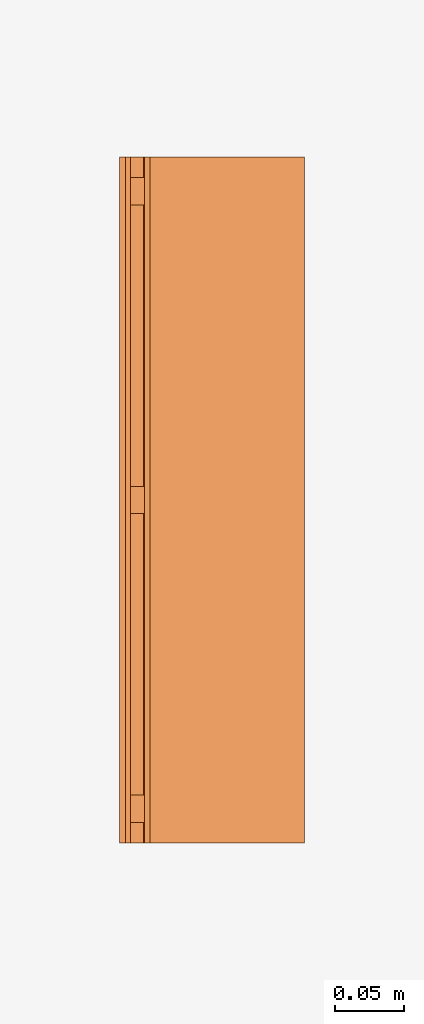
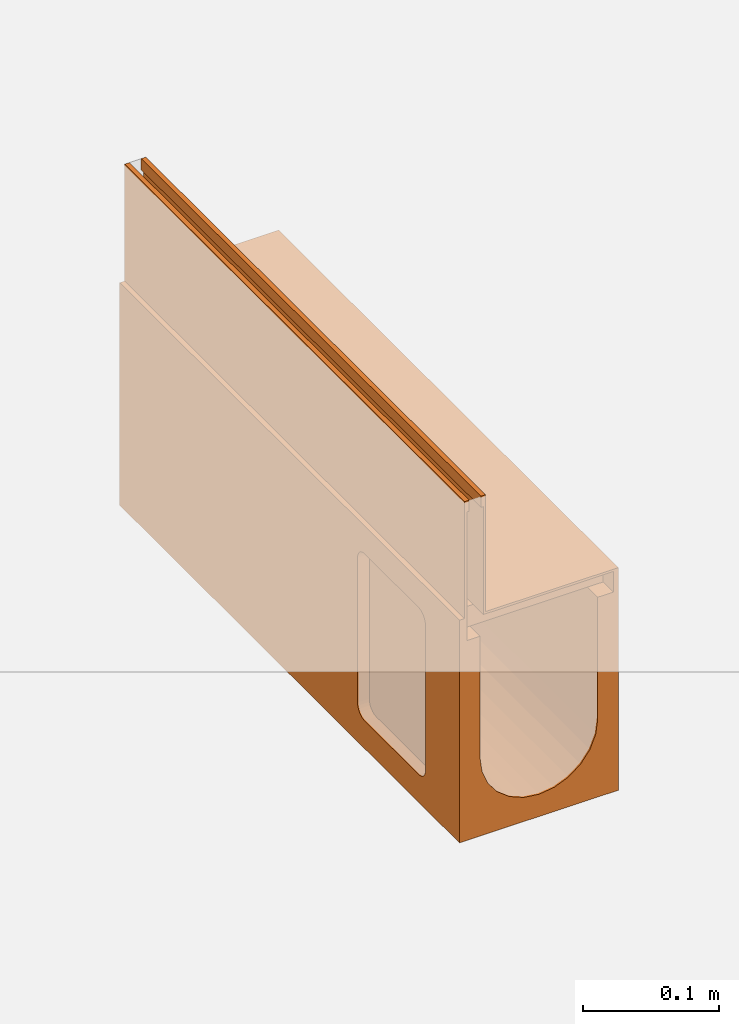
# One storey, part 2 of 2: 1 proxy.
"""IFC2X3 building model written with IfcOpenShell, lengths in millimetres."""

from ifc_helpers import new_model, entity, si_unit, converted_unit, direction, frame, origin, place, context, subcontext, project, spatial, faceted_brep, source, transform, mapped, material, material_list, element, save


model = new_model("IFC2X3")

# Units and contexts
model_context = context("Model", 3, precision=1e-06, world=origin(), true_north=direction((2.0, 6.12303176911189e-17, 1.0)))
context_of_model = context(None, 3, precision=1e-06, world=origin(), true_north=direction((2.0, 6.12303176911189e-17, 1.0)))
body_context = subcontext(model_context, "Body", "Model", "MODEL_VIEW")
ifc_project = project(units=[si_unit("LENGTHUNIT", "METRE", prefix="MILLI"), si_unit("AREAUNIT", "SQUARE_METRE", prefix="MILLI"), si_unit("VOLUMEUNIT", "CUBIC_METRE", prefix="MILLI"), converted_unit("PLANEANGLEUNIT", "DEGREE", entity("IfcRatioMeasure", 0.0174532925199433), si_unit("PLANEANGLEUNIT", "RADIAN"), dimensions=[0, 0, 0, 0, 0, 0, 0]), si_unit("TIMEUNIT", "SECOND")], contexts=[model_context, context_of_model])

# Site, building, storey
site_placement = place(None, origin())
site = spatial("IfcSite", under=ifc_project, at=site_placement, Name="Default", CompositionType="ELEMENT")
building_placement = place(site_placement, origin())
building = spatial("IfcBuilding", under=site, at=building_placement, CompositionType="ELEMENT")
storey_placement = place(building_placement, origin())
storey = spatial("IfcBuildingStorey", under=building, at=storey_placement, Name="Level 1", CompositionType="ELEMENT", Elevation=0.0)

# Proxy
ifc_material_1 = material(Name="Stainless Steel (F)")
ifc_material_2 = material(Name="Vienite® Synthetic Resin Concrete")
ifc_material_list = material_list([ifc_material_1, ifc_material_2])
shared_shape = source(origin(), body_context, "Body", "Brep", [
    faceted_brep([(63.249999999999, 15.0, -107.0), (63.249999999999, 17.0, -109.0), (63.249999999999, 33.0, -109.0), (63.249999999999, 35.0, -107.0), (63.249999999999, 17.0, -123.499999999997), (63.249999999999, 15.0, -125.499999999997), (63.249999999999, 33.0, -123.499999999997), (63.249999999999, 35.0, -125.499999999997), (-61.250000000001, 15.0, -125.499999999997), (-61.250000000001, 17.0, -123.499999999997), (-61.250000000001, 33.0, -123.499999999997), (-61.250000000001, 35.0, -125.499999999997), (-61.250000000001, 17.0, -109.0), (-61.250000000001, 15.0, -107.0), (-61.250000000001, 33.0, -109.0), (-61.250000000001, 35.0, -107.0)], [[[0, 1, 2, 3]], [[4, 1, 0, 5]], [[3, 2, 6, 7]], [[6, 4, 5, 7]], [[8, 9, 10, 11]], [[12, 9, 8, 13]], [[11, 10, 14, 15]], [[14, 12, 13, 15]], [[5, 0, 13, 8]], [[7, 5, 8, 11]], [[3, 7, 11, 15]], [[0, 3, 15, 13]], [[1, 4, 9, 12]], [[14, 2, 1, 12]], [[6, 2, 14, 10]], [[9, 4, 6, 10]]]),
    faceted_brep([(63.2499999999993, 240.0, -107.0), (63.2499999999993, 242.0, -109.0), (63.2499999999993, 258.0, -109.0), (63.2499999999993, 260.0, -107.0), (63.2499999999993, 242.0, -123.499999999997), (63.2499999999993, 240.0, -125.499999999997), (63.2499999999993, 258.0, -123.499999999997), (63.2499999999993, 260.0, -125.499999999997), (-61.2500000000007, 240.0, -125.499999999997), (-61.2500000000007, 242.0, -123.499999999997), (-61.2500000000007, 258.0, -123.499999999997), (-61.2500000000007, 260.0, -125.499999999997), (-61.2500000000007, 242.0, -109.0), (-61.2500000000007, 240.0, -107.0), (-61.2500000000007, 258.0, -109.0), (-61.2500000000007, 260.0, -107.0)], [[[0, 1, 2, 3]], [[4, 1, 0, 5]], [[3, 2, 6, 7]], [[6, 4, 5, 7]], [[8, 9, 10, 11]], [[12, 9, 8, 13]], [[11, 10, 14, 15]], [[14, 12, 13, 15]], [[5, 0, 13, 8]], [[7, 5, 8, 11]], [[3, 7, 11, 15]], [[0, 3, 15, 13]], [[1, 4, 9, 12]], [[2, 1, 12, 14]], [[6, 2, 14, 10]], [[4, 6, 10, 9]]]),
    faceted_brep([(63.2499999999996, 465.0, -107.0), (63.2499999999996, 467.0, -109.0), (63.2499999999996, 483.0, -109.0), (63.2499999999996, 485.0, -107.0), (63.2499999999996, 467.0, -123.499999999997), (63.2499999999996, 465.0, -125.499999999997), (63.2499999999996, 483.0, -123.499999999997), (63.2499999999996, 485.0, -125.499999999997), (-61.2500000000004, 465.0, -125.499999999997), (-61.2500000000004, 467.0, -123.499999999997), (-61.2500000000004, 483.0, -123.499999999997), (-61.2500000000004, 485.0, -125.499999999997), (-61.2500000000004, 467.0, -109.0), (-61.2500000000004, 465.0, -107.0), (-61.2500000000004, 483.0, -109.0), (-61.2500000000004, 485.0, -107.0)], [[[0, 1, 2, 3]], [[4, 1, 0, 5]], [[3, 2, 6, 7]], [[6, 4, 5, 7]], [[8, 9, 10, 11]], [[12, 9, 8, 13]], [[11, 10, 14, 15]], [[14, 12, 13, 15]], [[5, 0, 13, 8]], [[7, 5, 8, 11]], [[3, 7, 11, 15]], [[0, 3, 15, 13]], [[1, 4, 9, 12]], [[2, 1, 12, 14]], [[6, 2, 14, 10]], [[4, 6, 10, 9]]]),
    faceted_brep([(-47.2500000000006, 0.0, -10.0), (-47.2500000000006, 0.0, -107.0), (-45.2500000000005, 0.0, -105.0), (-45.2500000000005, 0.0, 0.0), (-49.2500000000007, 0.0, 0.0), (-49.2500000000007, 0.0, -10.0), (63.2499999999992, 0.0, -107.0), (63.2499999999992, 0.0, -105.0), (-45.2500000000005, 500.0, -105.0), (63.2499999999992, 500.0, -105.0), (63.2499999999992, 500.0, -107.0), (-47.2500000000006, 500.0, -107.0), (-47.2500000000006, 500.0, -10.0), (-45.2500000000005, 500.0, 0.0), (-49.2500000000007, 500.0, -10.0), (-49.2500000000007, 500.0, 0.0)], [[[0, 1, 2, 3]], [[4, 5, 0, 3]], [[6, 7, 2, 1]], [[8, 9, 10, 11]], [[12, 13, 8, 11]], [[12, 14, 15, 13]], [[12, 0, 5, 14]], [[1, 0, 12, 11]], [[6, 1, 11, 10]], [[9, 7, 6, 10]], [[8, 2, 7, 9]], [[3, 2, 8, 13]], [[4, 3, 13, 15]], [[5, 4, 15, 14]]]),
    faceted_brep([(-59.2500000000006, 500.0, 0.0), (-59.2500000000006, 500.0, -10.0), (-61.2500000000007, 500.0, -10.0), (-63.2500000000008, 500.0, 0.0), (-63.2500000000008, 500.0, -125.5), (-61.2500000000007, 500.0, -125.5), (-61.2500000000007, 0.0, -10.0), (-63.2500000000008, 0.0, 0.0), (-63.2500000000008, 0.0, -125.5), (-61.2500000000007, 0.0, -125.5), (-59.2500000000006, 0.0, 0.0), (-59.2500000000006, 0.0, -10.0)], [[[0, 1, 2, 3]], [[4, 3, 2, 5]], [[6, 7, 8, 9]], [[10, 7, 6, 11]], [[5, 9, 8, 4]], [[6, 9, 5, 2]], [[1, 11, 6, 2]], [[10, 11, 1, 0]], [[7, 10, 0, 3]], [[4, 8, 7, 3]]]),
    faceted_brep([(63.2499999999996, 500.0, -125.500000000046), (63.2499999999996, 500.0, -105.0), (67.4999999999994, 500.0, -105.0), (67.4999999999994, 500.0, -305.0), (50.0, 500.0, -235.0), (50.0, 500.0, -125.500000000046), (48.296291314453, 500.0, -247.940952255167), (-67.5000000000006, 500.0, -105.0), (-63.2500000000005, 500.0, -105.0), (-63.2500000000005, 500.0, -125.500000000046), (-67.5000000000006, 500.0, -305.0), (-50.0, 500.0, -125.500000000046), (-50.0, 500.0, -235.0), (35.3553390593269, 500.0, -270.355339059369), (43.3012701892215, 500.0, -260.0), (25.0, 500.0, -278.301270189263), (0.0, 500.0, -285.0), (12.9409522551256, 500.0, -283.296291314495), (-43.3012701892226, 500.0, -260.0), (-35.355339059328, 500.0, -270.355339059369), (-48.2962913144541, 500.0, -247.940952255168), (-25.0, 500.0, -278.301270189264), (-12.9409522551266, 500.0, -283.296291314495), (67.4999999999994, 0.0, -305.0), (12.9409522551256, 0.0, -283.296291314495), (0.0, 0.0, -285.0), (25.0, 0.0, -278.301270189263), (35.3553390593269, 0.0, -270.355339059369), (43.3012701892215, 0.0, -260.0), (48.296291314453, 0.0, -247.940952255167), (-12.9409522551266, 0.0, -283.296291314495), (-67.5000000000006, 0.0, -305.0), (-25.0, 0.0, -278.301270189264), (-35.355339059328, 0.0, -270.355339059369), (-43.3012701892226, 0.0, -260.0), (-48.2962913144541, 0.0, -247.940952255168), (50.0, 0.0, -235.0), (63.2499999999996, 0.0, -125.500000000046), (50.0, 0.0, -125.500000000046), (67.4999999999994, 0.0, -105.0), (63.2499999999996, 0.0, -105.0), (-50.0, 0.0, -235.0), (-50.0, 0.0, -125.500000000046), (-63.2500000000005, 0.0, -125.500000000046), (-63.2500000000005, 0.0, -105.0), (-67.5000000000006, 0.0, -105.0), (-67.5000000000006, 51.3397459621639, -135.0), (-67.5000000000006, 50.3407417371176, -137.411809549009), (-67.5000000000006, 52.9289321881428, -132.928932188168), (-67.5000000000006, 50.0, -140.0), (-67.5000000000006, 50.0, -270.0), (-67.5000000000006, 60.0, -130.0), (-67.5000000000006, 57.4118095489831, -130.340741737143), (-67.5000000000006, 55.0, -131.339745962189), (-67.5000000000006, 140.0, -130.0), (-67.5000000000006, 50.3407417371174, -272.588190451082), (-67.5000000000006, 51.3397459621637, -275.0), (-67.5000000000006, 52.9289321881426, -277.071067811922), (-67.5000000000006, 55.0, -278.660254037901), (-67.5000000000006, 57.4118095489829, -279.659258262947), (-67.5000000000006, 60.0, -280.0), (-67.5000000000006, 140.0, -280.0), (-67.5000000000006, 142.588190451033, -130.340741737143), (-67.5000000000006, 147.071067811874, -132.928932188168), (-67.5000000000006, 145.0, -131.339745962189), (-67.5000000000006, 148.660254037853, -135.0), (-67.5000000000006, 149.659258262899, -137.411809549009), (-67.5000000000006, 150.0, -140.0), (-67.5000000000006, 145.0, -278.660254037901), (-67.5000000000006, 147.071067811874, -277.071067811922), (-67.5000000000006, 142.588190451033, -279.659258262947), (-67.5000000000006, 149.659258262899, -272.588190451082), (-67.5000000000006, 150.0, -270.0), (-67.5000000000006, 148.660254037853, -275.0), (67.4999999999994, 51.3397459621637, -275.0), (67.4999999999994, 50.3407417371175, -272.588190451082), (67.4999999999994, 52.9289321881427, -277.071067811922), (67.4999999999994, 50.0, -270.0), (67.4999999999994, 50.0, -140.0), (67.4999999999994, 60.0, -280.0), (67.4999999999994, 57.4118095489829, -279.659258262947), (67.4999999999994, 55.0, -278.660254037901), (67.4999999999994, 140.0, -280.0), (67.4999999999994, 50.3407417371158, -137.411809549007), (67.4999999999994, 51.3397459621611, -135.0), (67.4999999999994, 52.9289321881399, -132.928932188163), (67.4999999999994, 55.0, -131.339745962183), (67.4999999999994, 57.4118095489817, -130.340741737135), (67.4999999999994, 60.0, -130.0), (67.4999999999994, 140.0, -130.0), (67.4999999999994, 142.588190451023, -279.659258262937), (67.4999999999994, 147.071067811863, -277.071067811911), (67.4999999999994, 145.0, -278.66025403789), (67.4999999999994, 148.660254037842, -275.0), (67.4999999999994, 149.659258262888, -272.588190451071), (67.4999999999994, 150.0, -270.0), (67.4999999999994, 145.0, -131.339745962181), (67.4999999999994, 147.071067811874, -132.92893218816), (67.4999999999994, 142.588190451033, -130.340741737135), (67.4999999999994, 149.659258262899, -137.411809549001), (67.4999999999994, 150.0, -140.0), (67.4999999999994, 148.660254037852, -135.0), (57.4999999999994, 149.659258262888, -272.588190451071), (57.4999999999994, 150.0, -270.0), (57.4999999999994, 140.0, -280.0), (57.4999999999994, 148.660254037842, -275.0), (57.4999999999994, 142.588190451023, -279.659258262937), (57.4999999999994, 145.0, -278.66025403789), (57.4999999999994, 147.071067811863, -277.071067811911), (57.4999999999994, 50.0, -140.0), (57.4999999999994, 150.0, -140.0), (57.4999999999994, 140.0, -130.0), (57.4999999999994, 149.659258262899, -137.411809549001), (57.4999999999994, 148.660254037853, -135.0), (57.4999999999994, 147.071067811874, -132.92893218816), (57.4999999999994, 145.0, -131.339745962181), (57.4999999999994, 142.588190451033, -130.340741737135), (57.4999999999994, 50.0, -270.0), (57.4999999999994, 55.0, -278.660254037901), (57.4999999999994, 57.4118095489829, -279.659258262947), (57.4999999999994, 60.0, -280.0), (57.4999999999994, 52.9289321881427, -277.071067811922), (57.4999999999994, 50.3407417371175, -272.588190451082), (57.4999999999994, 51.3397459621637, -275.0), (57.4999999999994, 60.0, -130.0), (57.4999999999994, 57.411809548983, -130.340741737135), (57.4999999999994, 55.0, -131.339745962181), (57.4999999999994, 51.3397459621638, -135.0), (57.4999999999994, 50.3407417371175, -137.411809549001), (57.4999999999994, 52.9289321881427, -132.92893218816), (-57.5000000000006, 55.0, -131.339745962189), (-57.5000000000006, 57.4118095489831, -130.340741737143), (-57.5000000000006, 60.0, -130.0), (-57.5000000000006, 50.3407417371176, -137.411809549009), (-57.5000000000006, 50.0, -140.0), (-57.5000000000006, 150.0, -140.0), (-57.5000000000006, 51.3397459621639, -135.0), (-57.5000000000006, 52.9289321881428, -132.928932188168), (-57.5000000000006, 140.0, -130.0), (-57.5000000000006, 142.588190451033, -130.340741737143), (-57.5000000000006, 145.0, -131.339745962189), (-57.5000000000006, 147.071067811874, -132.928932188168), (-57.5000000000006, 148.660254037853, -135.0), (-57.5000000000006, 149.659258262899, -137.411809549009), (-57.5000000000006, 50.0, -270.0), (-57.5000000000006, 150.0, -270.0), (-57.5000000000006, 50.3407417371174, -272.588190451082), (-57.5000000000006, 60.0, -280.0), (-57.5000000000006, 51.3397459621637, -275.0), (-57.5000000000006, 55.0, -278.660254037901), (-57.5000000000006, 52.9289321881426, -277.071067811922), (-57.5000000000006, 57.4118095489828, -279.659258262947), (-57.5000000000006, 140.0, -280.0), (-57.5000000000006, 149.659258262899, -272.588190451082), (-57.5000000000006, 148.660254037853, -275.0), (-57.5000000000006, 147.071067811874, -277.071067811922), (-57.5000000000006, 145.0, -278.660254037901), (-57.5000000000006, 142.588190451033, -279.659258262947)], [[[0, 1, 2, 3]], [[4, 5, 0, 3]], [[4, 3, 6]], [[7, 8, 9, 10]], [[9, 11, 12, 10]], [[13, 14, 3]], [[15, 13, 3]], [[16, 17, 3, 10]], [[3, 17, 15]], [[14, 6, 3]], [[18, 19, 10]], [[20, 18, 10]], [[21, 22, 10]], [[10, 22, 16]], [[21, 10, 19]], [[20, 10, 12]], [[23, 24, 25]], [[24, 23, 26]], [[27, 26, 23]], [[28, 27, 23]], [[23, 29, 28]], [[25, 30, 31, 23]], [[31, 30, 32]], [[33, 34, 31]], [[32, 33, 31]], [[31, 34, 35]], [[29, 23, 36]], [[37, 38, 36, 23]], [[39, 40, 37, 23]], [[41, 42, 43, 31]], [[43, 44, 45, 31]], [[41, 31, 35]], [[8, 44, 43, 9]], [[45, 44, 8, 7]], [[45, 46, 47]], [[46, 45, 48]], [[47, 49, 45]], [[45, 49, 50]], [[51, 52, 45]], [[53, 48, 45]], [[52, 53, 45]], [[54, 51, 45, 7]], [[50, 55, 31, 45]], [[31, 56, 57]], [[56, 31, 55]], [[57, 58, 31]], [[59, 60, 31]], [[58, 59, 31]], [[31, 60, 61]], [[62, 54, 7]], [[63, 64, 7]], [[62, 7, 64]], [[65, 7, 66]], [[7, 65, 63]], [[67, 66, 7, 10]], [[68, 69, 10]], [[61, 70, 10, 31]], [[68, 10, 70]], [[71, 72, 10]], [[73, 10, 69]], [[10, 73, 71]], [[72, 67, 10]], [[23, 31, 10, 3]], [[23, 74, 75]], [[74, 23, 76]], [[75, 77, 23]], [[23, 77, 78]], [[79, 80, 23]], [[81, 76, 23]], [[80, 81, 23]], [[82, 79, 23, 3]], [[78, 83, 39, 23]], [[39, 84, 85]], [[84, 39, 83]], [[85, 86, 39]], [[87, 88, 39]], [[86, 87, 39]], [[39, 88, 89]], [[90, 82, 3]], [[91, 92, 3]], [[90, 3, 92]], [[93, 3, 94]], [[3, 93, 91]], [[95, 94, 3, 2]], [[96, 97, 2]], [[89, 98, 2, 39]], [[96, 2, 98]], [[99, 100, 2]], [[101, 2, 97]], [[2, 101, 99]], [[100, 95, 2]], [[40, 39, 2, 1]], [[0, 37, 40, 1]], [[5, 38, 37, 0]], [[4, 36, 38, 5]], [[14, 28, 29, 6]], [[6, 29, 36, 4]], [[15, 26, 27, 13]], [[13, 27, 28, 14]], [[17, 24, 26, 15]], [[24, 17, 16, 25]], [[21, 32, 30, 22]], [[19, 33, 32, 21]], [[20, 35, 34, 18]], [[18, 34, 33, 19]], [[12, 41, 35, 20]], [[22, 30, 25, 16]], [[11, 42, 41, 12]], [[43, 42, 11, 9]], [[102, 103, 104, 105]], [[104, 106, 107, 105]], [[107, 108, 105]], [[109, 103, 110, 111]], [[110, 112, 113, 114]], [[111, 114, 115, 116]], [[111, 110, 114]], [[117, 104, 103, 109]], [[118, 119, 120, 121]], [[122, 123, 121, 120]], [[117, 122, 120, 104]], [[124, 125, 126, 109]], [[127, 128, 109, 129]], [[126, 129, 109]], [[124, 109, 111]], [[128, 83, 78, 109]], [[127, 84, 83, 128]], [[84, 127, 129, 85]], [[126, 86, 85, 129]], [[125, 87, 86, 126]], [[87, 125, 124, 88]], [[88, 124, 111, 89]], [[116, 98, 89, 111]], [[115, 96, 98, 116]], [[96, 115, 114, 97]], [[113, 101, 97, 114]], [[112, 99, 101, 113]], [[99, 112, 110, 100]], [[100, 110, 103, 95]], [[102, 94, 95, 103]], [[105, 93, 94, 102]], [[93, 105, 108, 91]], [[107, 92, 91, 108]], [[106, 90, 92, 107]], [[90, 106, 104, 82]], [[82, 104, 120, 79]], [[119, 80, 79, 120]], [[118, 81, 80, 119]], [[81, 118, 121, 76]], [[123, 74, 76, 121]], [[122, 75, 74, 123]], [[75, 122, 117, 77]], [[77, 117, 109, 78]], [[130, 131, 132, 133]], [[134, 133, 132, 135]], [[133, 136, 137, 130]], [[138, 139, 140, 135]], [[140, 141, 142, 143]], [[143, 135, 140]], [[135, 132, 138]], [[144, 134, 135, 145]], [[146, 144, 147, 148]], [[149, 150, 147, 151]], [[148, 147, 150]], [[152, 147, 144, 145]], [[153, 154, 155, 145]], [[156, 157, 152, 155]], [[145, 155, 152]], [[131, 52, 51, 132]], [[130, 53, 52, 131]], [[53, 130, 137, 48]], [[136, 46, 48, 137]], [[133, 47, 46, 136]], [[47, 133, 134, 49]], [[138, 132, 51, 54]], [[143, 66, 67, 135]], [[142, 65, 66, 143]], [[65, 142, 141, 63]], [[140, 64, 63, 141]], [[139, 62, 64, 140]], [[62, 139, 138, 54]], [[72, 145, 135, 67]], [[157, 70, 61, 152]], [[156, 68, 70, 157]], [[68, 156, 155, 69]], [[154, 73, 69, 155]], [[153, 71, 73, 154]], [[71, 153, 145, 72]], [[147, 152, 61, 60]], [[146, 55, 50, 144]], [[148, 56, 55, 146]], [[56, 148, 150, 57]], [[149, 58, 57, 150]], [[151, 59, 58, 149]], [[59, 151, 147, 60]], [[134, 144, 50, 49]]]),
])
proxy_placement = place(storey_placement, frame((0.0, -230.0, 0.0)))
element("IfcBuildingElementProxy", 1, at=proxy_placement, inside=storey, material=ifc_material_list, Name="Civil-Drainage-Channel-ACO-MultiDrain-M100DS-Brickslot-Channel-System:24101 - No 10.1J Constant Depth Channel - 500mm LG -Invert Depth 180mm:24101 - No 10.1J Constant Depth Channel - 500mm LG -Invert Depth 180mm", ObjectType="24101 - No 10.1J Constant Depth Channel - 500mm LG -Invert Depth 180mm", CompositionType="ELEMENT", context=body_context, shape_type="MappedRepresentation", body=[
    mapped(shared_shape, transform((0.0, 0.0, 0.0), scale=1.0)),
])

save(model, "model.ifc")
